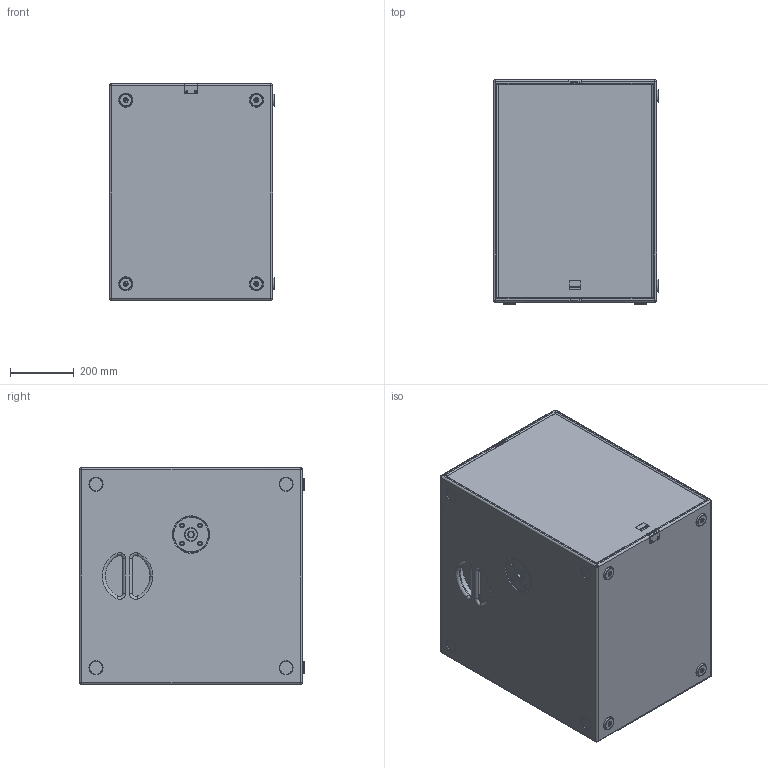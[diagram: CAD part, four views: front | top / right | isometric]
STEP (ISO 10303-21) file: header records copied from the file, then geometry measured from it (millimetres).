
FILE_DESCRIPTION (( 'STEP AP203' ), '1' );
FILE_NAME ('Seeburg_G-Sub.STEP', '2012-10-15T13:17:09', ( 'Fabian' ), ( '' ), 'SwSTEP 2.0', 'SolidWorks 2009', '' );
FILE_SCHEMA (( 'CONFIG_CONTROL_DESIGN' ));
Length unit declared in the file: millimetre
Products named in the file (2): G-Sub; Seeburg_G-Sub
Assembly tree (1 placements, depth 2):
  Seeburg_G-Sub
    G-Sub
Bounding box: 518 x 704 x 680 mm (x, y, z)
Volume: 35411533.3 mm3; surface area: 4916270.9 mm2
Topology: 24 solids, 24 shells, 704 faces, 1731 edges, 1111 vertices
Faces by surface type: cylinder 281, plane 233, torus 94, cone 84, sphere 12
Entity records: 24738 total; most frequent: CARTESIAN_POINT 7364, DIRECTION 3846, ORIENTED_EDGE 3446, EDGE_CURVE 1723, AXIS2_PLACEMENT_3D 1529, VERTEX_POINT 1107, CIRCLE 821, EDGE_LOOP 814
